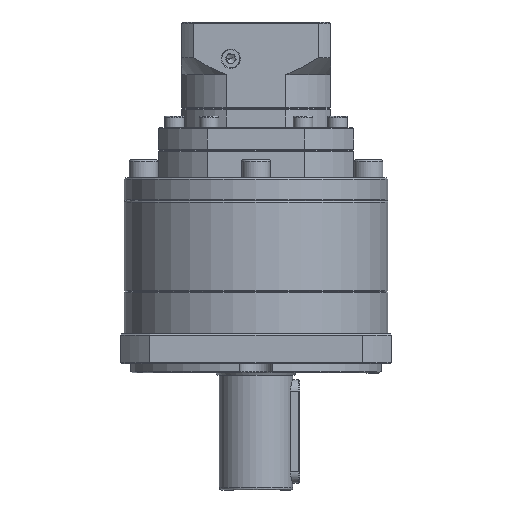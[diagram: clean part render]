
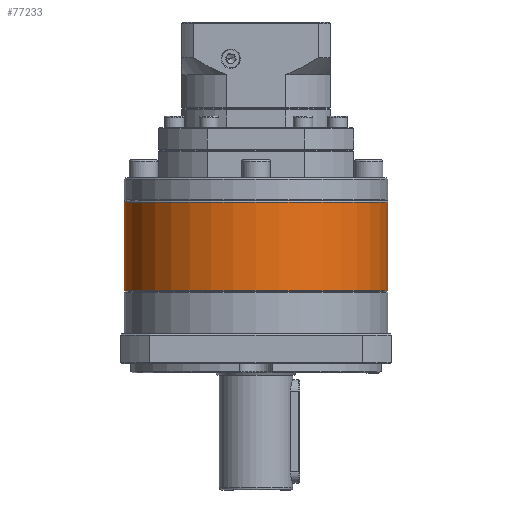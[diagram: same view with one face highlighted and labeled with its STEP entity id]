
A CAD part, front view. The second image highlights one B-rep face of the part: STEP entity #77233.
In plain terms, the highlighted cylindrical face has radius 57.5 mm (diameter 115 mm), a partial arc.
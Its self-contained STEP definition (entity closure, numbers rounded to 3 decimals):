
#1329 = CIRCLE ( 'NONE', #130069, 57.5 ) ;
#2135 = DIRECTION ( 'NONE',  ( 0., 0., -1. ) ) ;
#7008 = EDGE_CURVE ( 'NONE', #17790, #105336, #21377, .T. ) ;
#10660 = DIRECTION ( 'NONE',  ( 0., 0., -1. ) ) ;
#17790 = VERTEX_POINT ( 'NONE', #42674 ) ;
#21377 = CIRCLE ( 'NONE', #82791, 57.5 ) ;
#22859 = EDGE_LOOP ( 'NONE', ( #76017, #66539, #66141, #49489 ) ) ;
#26307 = DIRECTION ( 'NONE',  ( 0., 0., -1. ) ) ;
#30385 = CARTESIAN_POINT ( 'NONE',  ( -40.184, 3.097, 208.652 ) ) ;
#36573 = VERTEX_POINT ( 'NONE', #37960 ) ;
#37313 = CARTESIAN_POINT ( 'NONE',  ( -40.184, 3.097, 169.941 ) ) ;
#37960 = CARTESIAN_POINT ( 'NONE',  ( 17.316, 3.097, 169.941 ) ) ;
#42674 = CARTESIAN_POINT ( 'NONE',  ( 17.316, 3.097, 208.652 ) ) ;
#46758 = DIRECTION ( 'NONE',  ( 0., 0., 1. ) ) ;
#46804 = FACE_OUTER_BOUND ( 'NONE', #22859, .T. ) ;
#49489 = ORIENTED_EDGE ( 'NONE', *, *, #64272, .T. ) ;
#53494 = VECTOR ( 'NONE', #26307, 1000. ) ;
#55901 = CARTESIAN_POINT ( 'NONE',  ( -97.684, 3.097, 208.652 ) ) ;
#57353 = EDGE_CURVE ( 'NONE', #17790, #36573, #59152, .T. ) ;
#59152 = LINE ( 'NONE', #114466, #83310 ) ;
#59384 = DIRECTION ( 'NONE',  ( 0., 0., -1. ) ) ;
#64272 = EDGE_CURVE ( 'NONE', #90946, #36573, #1329, .T. ) ;
#66141 = ORIENTED_EDGE ( 'NONE', *, *, #74129, .T. ) ;
#66539 = ORIENTED_EDGE ( 'NONE', *, *, #7008, .T. ) ;
#73789 = CARTESIAN_POINT ( 'NONE',  ( -97.684, 3.097, 209.152 ) ) ;
#74129 = EDGE_CURVE ( 'NONE', #105336, #90946, #124368, .T. ) ;
#76017 = ORIENTED_EDGE ( 'NONE', *, *, #57353, .F. ) ;
#77233 = ADVANCED_FACE ( 'NONE', ( #46804 ), #98314, .T. ) ;
#80435 = AXIS2_PLACEMENT_3D ( 'NONE', #120589, #59384, #129619 ) ;
#82791 = AXIS2_PLACEMENT_3D ( 'NONE', #30385, #10660, #92001 ) ;
#83310 = VECTOR ( 'NONE', #2135, 1000. ) ;
#90946 = VERTEX_POINT ( 'NONE', #115261 ) ;
#92001 = DIRECTION ( 'NONE',  ( -1., 0., 0. ) ) ;
#98314 = CYLINDRICAL_SURFACE ( 'NONE', #80435, 57.5 ) ;
#105336 = VERTEX_POINT ( 'NONE', #55901 ) ;
#114466 = CARTESIAN_POINT ( 'NONE',  ( 17.316, 3.097, 209.152 ) ) ;
#115261 = CARTESIAN_POINT ( 'NONE',  ( -97.684, 3.097, 169.941 ) ) ;
#120589 = CARTESIAN_POINT ( 'NONE',  ( -40.184, 3.097, 209.152 ) ) ;
#124368 = LINE ( 'NONE', #73789, #53494 ) ;
#129086 = DIRECTION ( 'NONE',  ( -1., 0., 0. ) ) ;
#129619 = DIRECTION ( 'NONE',  ( -1., 0., 0. ) ) ;
#130069 = AXIS2_PLACEMENT_3D ( 'NONE', #37313, #46758, #129086 ) ;
